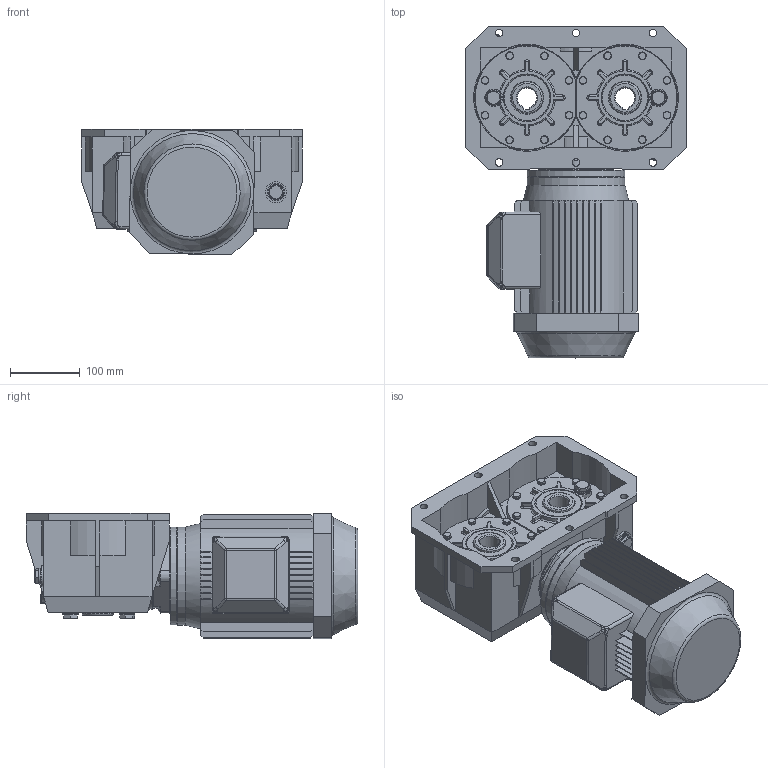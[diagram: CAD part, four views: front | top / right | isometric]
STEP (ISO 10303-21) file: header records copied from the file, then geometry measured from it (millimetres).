
FILE_DESCRIPTION((''),'2;1');
FILE_NAME('Y:\Archivi Inventor\Prog_07\int.140\Figurini\MRV2U 140 sito\MRV1403U_90l_b14.stp','2013-02-14T14:27:12',('tech3'),(''),'Autodesk Inventor 2013','Autodesk Inventor 2013','');
FILE_SCHEMA(('AUTOMOTIVE_DESIGN { 1 0 10303 214 1 1 1 1 }'));
Length unit declared in the file: millimetre
Products named in the file (17): Figurino MRV_ 2U 140; Fig_Carcassa MRV-2U 140; Fig_0714002; 0103028; 0103029; 0104028; 0103009; Fig_0103008-101; PARAOLIO 35x47x8; PARAOLIO 45x65x10; Guarnizione 3_8 GAS; Tappo3_8 GAS; UNI 5739 M8 x 20; UNI 5739 M6 x 20; UNI 5931 M 8 x  25; 0104006; motori B14 90L
Assembly tree (53 placements, depth 2):
  Figurino MRV_ 2U 140
    Fig_Carcassa MRV-2U 140
    Fig_0714002  x2
    0103028
    0103029  x2
    0104028
    0103009
    Fig_0103008-101  x2
    PARAOLIO 35x47x8
    PARAOLIO 45x65x10  x4
    Guarnizione 3_8 GAS  x6
    Tappo3_8 GAS  x6
    UNI 5739 M8 x 20  x4
    UNI 5739 M6 x 20  x16
    UNI 5931 M 8 x  25  x4
    0104006
    motori B14 90L
Bounding box: 315 x 474.35 x 179.59 mm (x, y, z)
Volume: 9573214.1 mm3; surface area: 1109722.2 mm2
Topology: 53 solids, 57 shells, 2023 faces, 4774 edges, 2957 vertices
Faces by surface type: plane 1008, cylinder 575, cone 211, torus 100, bspline 77, sphere 52
Full cylindrical faces by diameter (mm): 4.917 x16, 6 x16, 6.5 x32, 6.647 x12, 8 x8, 8.5 x16, 8.88 x16, 9 x4, 11 x22, 11.63 x4, 13 x4, 13.046 x6, 14.95 x6, 16.3 x6, 22 x12, 24 x1, 25 x4, 30 x3, 34 x1, 39.605 x1, 41.938 x2, 43.5 x1, 45 x4, 47 x2, 50 x2, 50.881 x4, 52 x3, 60.5 x4, 62 x3, 65 x8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
Entity records: 41643 total; most frequent: CARTESIAN_POINT 11591, DIRECTION 6178, ORIENTED_EDGE 5694, EDGE_CURVE 2847, AXIS2_PLACEMENT_3D 2290, VERTEX_POINT 1883, EDGE_LOOP 1620, VECTOR 1598
